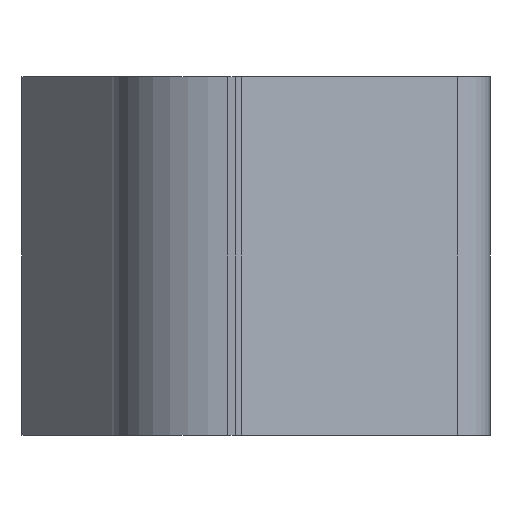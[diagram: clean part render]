
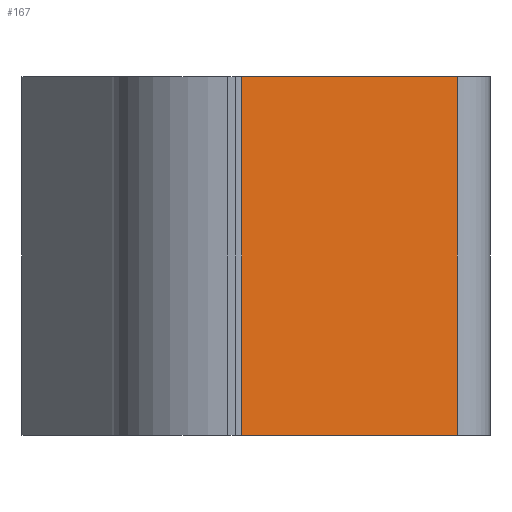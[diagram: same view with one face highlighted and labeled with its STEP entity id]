
A CAD part, left-side view. The second image highlights one B-rep face of the part: STEP entity #167.
In plain terms, the highlighted planar face has unit normal (-0.985, -0.174, 0).
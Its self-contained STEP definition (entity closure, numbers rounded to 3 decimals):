
#6 = ORIENTED_EDGE ( 'NONE', *, *, #844, .F. ) ;
#28 = EDGE_CURVE ( 'NONE', #1130, #88, #348, .T. ) ;
#40 = ORIENTED_EDGE ( 'NONE', *, *, #116, .T. ) ;
#81 = ORIENTED_EDGE ( 'NONE', *, *, #28, .F. ) ;
#88 = VERTEX_POINT ( 'NONE', #787 ) ;
#116 = EDGE_CURVE ( 'NONE', #1130, #268, #929, .T. ) ;
#147 = EDGE_LOOP ( 'NONE', ( #81, #40, #6, #1155 ) ) ;
#167 = ADVANCED_FACE ( 'NONE', ( #638 ), #639, .T. ) ;
#257 = VERTEX_POINT ( 'NONE', #317 ) ;
#268 = VERTEX_POINT ( 'NONE', #352 ) ;
#317 = CARTESIAN_POINT ( 'NONE',  ( -1.932, -8.669, 0. ) ) ;
#348 = LINE ( 'NONE', #349, #350 ) ;
#349 = CARTESIAN_POINT ( 'NONE',  ( -1.932, -8.669, 9. ) ) ;
#350 = VECTOR ( 'NONE', #351, 1000. ) ;
#351 = DIRECTION ( 'NONE',  ( 0.174, -0.985, 0. ) ) ;
#352 = CARTESIAN_POINT ( 'NONE',  ( -2.886, -3.256, 0. ) ) ;
#638 = FACE_OUTER_BOUND ( 'NONE', #147, .T. ) ;
#639 = PLANE ( 'NONE',  #640 ) ;
#640 = AXIS2_PLACEMENT_3D ( 'NONE', #641, #642, #643 ) ;
#641 = CARTESIAN_POINT ( 'NONE',  ( -2.894, -3.213, 0. ) ) ;
#642 = DIRECTION ( 'NONE',  ( -0.985, -0.174, 0. ) ) ;
#643 = DIRECTION ( 'NONE',  ( 0.174, -0.985, 0. ) ) ;
#755 = LINE ( 'NONE', #756, #757 ) ;
#756 = CARTESIAN_POINT ( 'NONE',  ( -2.894, -3.213, 0. ) ) ;
#757 = VECTOR ( 'NONE', #758, 1000. ) ;
#758 = DIRECTION ( 'NONE',  ( -0.174, 0.985, 0. ) ) ;
#787 = CARTESIAN_POINT ( 'NONE',  ( -1.932, -8.669, 9. ) ) ;
#844 = EDGE_CURVE ( 'NONE', #257, #268, #755, .T. ) ;
#900 = LINE ( 'NONE', #901, #902 ) ;
#901 = CARTESIAN_POINT ( 'NONE',  ( -1.932, -8.669, 0. ) ) ;
#902 = VECTOR ( 'NONE', #903, 1000. ) ;
#903 = DIRECTION ( 'NONE',  ( 0., 0., -1. ) ) ;
#929 = LINE ( 'NONE', #930, #931 ) ;
#930 = CARTESIAN_POINT ( 'NONE',  ( -2.886, -3.256, 0. ) ) ;
#931 = VECTOR ( 'NONE', #933, 1000. ) ;
#933 = DIRECTION ( 'NONE',  ( 0., 0., -1. ) ) ;
#1070 = CARTESIAN_POINT ( 'NONE',  ( -2.886, -3.256, 9. ) ) ;
#1092 = EDGE_CURVE ( 'NONE', #88, #257, #900, .T. ) ;
#1130 = VERTEX_POINT ( 'NONE', #1070 ) ;
#1155 = ORIENTED_EDGE ( 'NONE', *, *, #1092, .F. ) ;
